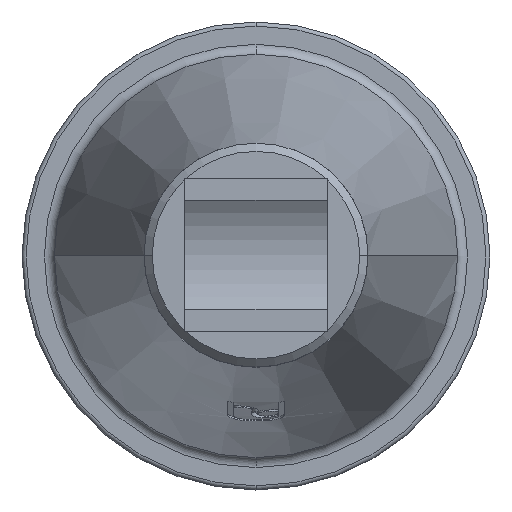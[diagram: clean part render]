
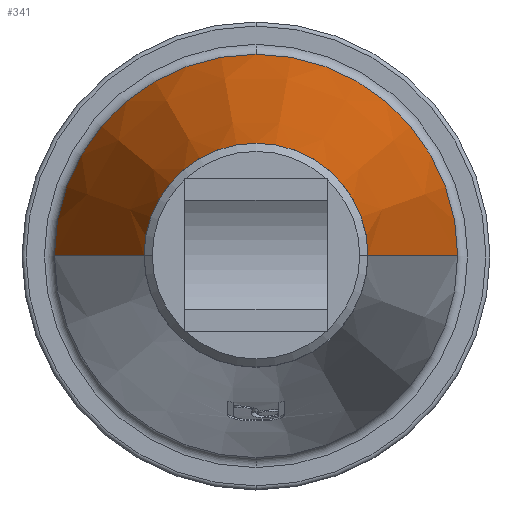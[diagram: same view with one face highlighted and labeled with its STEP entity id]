
A CAD part, top view. The second image highlights one B-rep face of the part: STEP entity #341.
In plain terms, the highlighted conical face has half-angle 12.633 degrees and reference radius 77.092 mm.
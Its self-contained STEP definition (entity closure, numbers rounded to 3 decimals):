
#341=ADVANCED_FACE('',(#695),#696,.T.);
#695=FACE_OUTER_BOUND('',#1097,.T.);
#696=CONICAL_SURFACE('',#1098,77.092,0.22);
#1097=EDGE_LOOP('',(#1880,#1881,#1882,#1883,#1884));
#1098=AXIS2_PLACEMENT_3D('',#1885,#1886,#1887);
#1880=ORIENTED_EDGE('',*,*,#2437,.T.);
#1881=ORIENTED_EDGE('',*,*,#2553,.F.);
#1882=ORIENTED_EDGE('',*,*,#2406,.F.);
#1883=ORIENTED_EDGE('',*,*,#2439,.T.);
#1884=ORIENTED_EDGE('',*,*,#2554,.T.);
#1885=CARTESIAN_POINT('',(56.76,-460.101,-58.018));
#1886=DIRECTION('',(0.,0.,-1.0));
#1887=DIRECTION('',(1.0,0.,0.));
#2406=EDGE_CURVE('',#2858,#2860,#2861,.T.);
#2437=EDGE_CURVE('',#2914,#2915,#2916,.T.);
#2439=EDGE_CURVE('',#2858,#2917,#2919,.T.);
#2553=EDGE_CURVE('',#2860,#2915,#3092,.T.);
#2554=EDGE_CURVE('',#2917,#2914,#3093,.T.);
#2858=VERTEX_POINT('',#3588);
#2860=VERTEX_POINT('',#3590);
#2861=CIRCLE('',#3591,99.123);
#2914=VERTEX_POINT('',#3732);
#2915=VERTEX_POINT('',#3733);
#2916=LINE('',#3734,#3735);
#2917=VERTEX_POINT('',#3736);
#2919=LINE('',#3738,#3739);
#3092=CIRCLE('',#4352,99.123);
#3093=CIRCLE('',#4353,55.061);
#3588=CARTESIAN_POINT('',(-42.363,-460.101,-156.31));
#3590=CARTESIAN_POINT('',(56.76,-360.979,-156.31));
#3591=AXIS2_PLACEMENT_3D('',#4699,#4700,#4701);
#3732=CARTESIAN_POINT('',(111.821,-460.101,40.275));
#3733=CARTESIAN_POINT('',(155.882,-460.101,-156.31));
#3734=CARTESIAN_POINT('',(133.851,-460.101,-58.018));
#3735=VECTOR('',#4749,1.0);
#3736=CARTESIAN_POINT('',(1.699,-460.101,40.275));
#3738=CARTESIAN_POINT('',(-20.332,-460.101,-58.018));
#3739=VECTOR('',#4753,1.0);
#4352=AXIS2_PLACEMENT_3D('',#4860,#4861,#4862);
#4353=AXIS2_PLACEMENT_3D('',#4863,#4864,#4865);
#4699=CARTESIAN_POINT('',(56.76,-460.101,-156.31));
#4700=DIRECTION('',(0.,0.,-1.0));
#4701=DIRECTION('',(1.0,0.,0.));
#4749=DIRECTION('',(0.219,0.,-0.976));
#4753=DIRECTION('',(0.219,0.,0.976));
#4860=CARTESIAN_POINT('',(56.76,-460.101,-156.31));
#4861=DIRECTION('',(0.,0.,-1.0));
#4862=DIRECTION('',(1.0,0.,0.));
#4863=CARTESIAN_POINT('',(56.76,-460.101,40.275));
#4864=DIRECTION('',(0.,0.,-1.0));
#4865=DIRECTION('',(1.0,0.,0.));
